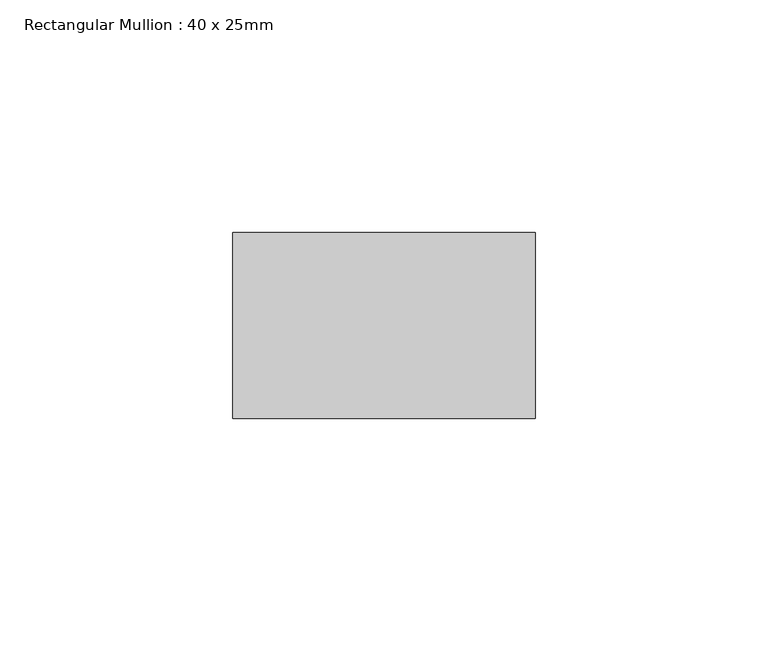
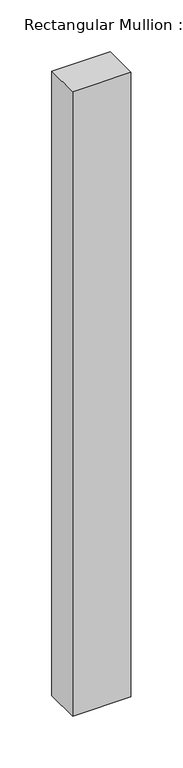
"""IFC4 building model written with IfcOpenShell, lengths in millimetres: member geometry, Rectangular Mullion : 40 x 25mm."""

import ifcopenshell
import ifcopenshell.guid

model = None  # the IFC model being written
_history = None  # IfcOwnerHistory: only IFC2X3 demands one
_inside = {}  # id of a spatial element -> (the spatial element, [elements in it])
_under = {}  # id of a project, library or spatial element -> (it, [spatial elements below it])
_declared = {}  # id of a project -> (the project, [libraries it declares])
_typed = {}  # id of a type object -> (the type object, [elements of that type])
_made_of = {}  # id of a material, layer set ... -> (it, [elements and type objects made of it])


def new_model(schema):
    """Start an empty IFC model of exactly this schema.

    Asked for "IFC4X3", IfcOpenShell would pick the latest addendum, in which some entities
    have other attributes; the version numbers below select the first issue.
    IFC2X3 requires an IfcOwnerHistory on every rooted entity: one is made here for all.
    """
    global model, _history
    if schema == "IFC4X3":
        model = ifcopenshell.file(schema_version=(4, 3, 0, 0))
    else:
        model = ifcopenshell.file(schema=schema)
    _inside.clear()
    _under.clear()
    _declared.clear()
    _typed.clear()
    _made_of.clear()
    _history = None
    if model.schema == "IFC2X3":
        org = make("IfcOrganization", Name="unknown")
        user = make(
            "IfcPersonAndOrganization",
            ThePerson=make("IfcPerson", FamilyName="unknown"),
            TheOrganization=org,
        )
        app = make(
            "IfcApplication",
            ApplicationDeveloper=org,
            Version="unknown",
            ApplicationFullName="unknown",
            ApplicationIdentifier="unknown",
        )
        _history = make(
            "IfcOwnerHistory",
            OwningUser=user,
            OwningApplication=app,
            ChangeAction="ADDED",
            CreationDate=0,
        )
    return model


def make(cls, **values):
    """One entity of the class cls with the attributes given. An attribute that is None is left unset."""
    return model.create_entity(
        cls, **{name: value for name, value in values.items() if value is not None}
    )


def rooted(cls, **values):
    """An entity with a GlobalId (a new one), such as an element, a storey or a relation."""
    return make(cls, GlobalId=ifcopenshell.guid.new(), OwnerHistory=_history, **values)


def si_unit(unit_type, name, prefix=None):
    """IfcSIUnit, for example si_unit("LENGTHUNIT", "METRE", prefix="MILLI")."""
    return make("IfcSIUnit", UnitType=unit_type, Prefix=prefix, Name=name)


def assignment(units):
    """IfcUnitAssignment: the units of a project."""
    return None if units is None else make("IfcUnitAssignment", Units=units)


def point(xyz):
    """IfcCartesianPoint."""
    return None if xyz is None else make("IfcCartesianPoint", Coordinates=xyz)


def direction(xyz):
    """IfcDirection."""
    return None if xyz is None else make("IfcDirection", DirectionRatios=xyz)


def frame(location, z_axis=None, x_axis=None):
    """IfcAxis2Placement3D, a coordinate frame: its origin and axes. An axis left out is left unset."""
    return make(
        "IfcAxis2Placement3D",
        Location=point(location),
        Axis=direction(z_axis),
        RefDirection=direction(x_axis),
    )


def origin():
    """The frame at (0, 0, 0) with its axes left unset."""
    return frame((0.0, 0.0, 0.0))


def place(relative_to, where):
    """IfcLocalPlacement: puts the frame where relative to a parent placement (None: the world)."""
    return make(
        "IfcLocalPlacement", PlacementRelTo=relative_to, RelativePlacement=where
    )


def context(
    kind, dimensions, precision=None, world=None, true_north=None, identifier=None
):
    """IfcGeometricRepresentationContext, for example the 3D "Model" context."""
    return make(
        "IfcGeometricRepresentationContext",
        ContextIdentifier=identifier,
        ContextType=kind,
        CoordinateSpaceDimension=dimensions,
        Precision=precision,
        WorldCoordinateSystem=world,
        TrueNorth=true_north,
    )


def project(units=None, contexts=None):
    """IfcProject with its units and contexts."""
    return rooted(
        "IfcProject",
        Name="project",
        RepresentationContexts=contexts,
        UnitsInContext=assignment(units),
    )


def spatial(cls, under=None, at=None, **own):
    """A site, building, storey or space (cls), placed at a placement, below another one or the project."""
    s = rooted(cls, ObjectPlacement=at, **own)
    if under is not None:
        _under.setdefault(under.id(), (under, []))[1].append(s)
    return s


def polyline(points):
    """IfcPolyline through the points."""
    return make("IfcPolyline", Points=[point(p) for p in points])


def outline(outer, holes=None, kind="AREA"):
    """IfcArbitraryClosedProfileDef: a profile drawn as a closed curve; with holes, ...WithVoids."""
    if holes is None:
        return make("IfcArbitraryClosedProfileDef", ProfileType=kind, OuterCurve=outer)
    return make(
        "IfcArbitraryProfileDefWithVoids",
        ProfileType=kind,
        OuterCurve=outer,
        InnerCurves=holes,
    )


def extrude(swept, where, along, depth):
    """IfcExtrudedAreaSolid: the profile swept, set in the frame where, extruded along a direction by depth."""
    return make(
        "IfcExtrudedAreaSolid",
        SweptArea=swept,
        Position=where,
        ExtrudedDirection=direction(along),
        Depth=depth,
    )


def shape(context_of_items, identifier, shape_type, items):
    """IfcShapeRepresentation: the items that make up one representation, for example the "Body"."""
    return make(
        "IfcShapeRepresentation",
        ContextOfItems=context_of_items,
        RepresentationIdentifier=identifier,
        RepresentationType=shape_type,
        Items=items,
    )


def source(mapping_origin, context_of_items, identifier, shape_type, items):
    """IfcRepresentationMap: a shape defined once, which mapped items show again and again."""
    return make(
        "IfcRepresentationMap",
        MappingOrigin=mapping_origin,
        MappedRepresentation=shape(context_of_items, identifier, shape_type, items),
    )


def transform(
    local_origin,
    x_axis=None,
    y_axis=None,
    z_axis=None,
    scale=None,
    scale2=None,
    scale3=None,
    uniform=True,
):
    """IfcCartesianTransformationOperator3D, or its non-uniform kind. x_axis, y_axis, z_axis: its Axis1, 2, 3."""
    if uniform:
        return make(
            "IfcCartesianTransformationOperator3D",
            Axis1=direction(x_axis),
            Axis2=direction(y_axis),
            LocalOrigin=point(local_origin),
            Scale=scale,
            Axis3=direction(z_axis),
        )
    return make(
        "IfcCartesianTransformationOperator3DnonUniform",
        Axis1=direction(x_axis),
        Axis2=direction(y_axis),
        LocalOrigin=point(local_origin),
        Scale=scale,
        Axis3=direction(z_axis),
        Scale2=scale2,
        Scale3=scale3,
    )


def mapped(mapping_source, mapping_target):
    """IfcMappedItem: shows the shape of a source again, moved by a transform."""
    return make(
        "IfcMappedItem", MappingSource=mapping_source, MappingTarget=mapping_target
    )


def made_of(thing, what):
    """Note that an element or type object is made of a material, layer set ...; save() writes the relation."""
    if what is not None:
        _made_of.setdefault(what.id(), (what, []))[1].append(thing)
    return thing


def element(
    cls,
    number,
    at=None,
    inside=None,
    cuts=None,
    type_object=None,
    material=None,
    context=None,
    identifier="Body",
    shape_type=None,
    held_by="IfcProductDefinitionShape",
    body=None,
    shapes=None,
    **own,
):
    """One element of the class cls, such as IfcWall. Its Tag is "e" and its number.

    at: its placement. inside: the storey or other place that contains it. cuts: it is an
    opening in that element (IfcRelVoidsElement). A single representation is given by context,
    identifier, shape_type and body (its items); several are given by shapes. held_by: the class
    of the entity that holds the representations. save() writes the other relations.
    """
    e = rooted(cls, Tag="e%d" % number, ObjectPlacement=at, **own)
    if body is not None:
        shapes = [shape(context, identifier, shape_type, body)]
    if shapes is not None:
        e.Representation = make(held_by, Representations=shapes)
    if inside is not None:
        _inside.setdefault(inside.id(), (inside, []))[1].append(e)
    if cuts is not None:
        rooted(
            "IfcRelVoidsElement", RelatingBuildingElement=cuts, RelatedOpeningElement=e
        )
    if type_object is not None:
        _typed.setdefault(type_object.id(), (type_object, []))[1].append(e)
    return made_of(e, material)


def aggregate(whole, parts):
    """IfcRelAggregates: a whole, such as a stair, and the parts it consists of."""
    return rooted("IfcRelAggregates", RelatingObject=whole, RelatedObjects=parts)


def save(model, path):
    """Write the relations noted so far, then the file.

    IfcRelAggregates (storeys below a building ...), IfcRelContainedInSpatialStructure (elements
    in a storey), IfcRelDefinesByType, IfcRelAssociatesMaterial and IfcRelDeclares: one each for
    every whole, place, type object, material and project.
    """
    for whole, parts in _under.values():
        aggregate(whole, parts)
    for where, things in _inside.values():
        rooted(
            "IfcRelContainedInSpatialStructure",
            RelatedElements=things,
            RelatingStructure=where,
        )
    for kind, things in _typed.values():
        rooted("IfcRelDefinesByType", RelatedObjects=things, RelatingType=kind)
    for what, things in _made_of.values():
        rooted("IfcRelAssociatesMaterial", RelatedObjects=things, RelatingMaterial=what)
    for by, libraries in _declared.values():
        rooted("IfcRelDeclares", RelatingContext=by, RelatedDefinitions=libraries)
    model.write(path)


def rectangular_mullion_40_x_25mm_f49b78ae(model_context):
    return source(origin(), model_context, "Body", "SweptSolid", [
        extrude(outline(polyline([(40.0, -20.0), (40.0, -60.0), (-25.0, -60.0), (-25.0, -20.0), (40.0, -20.0)])), frame((0.0, 0.0, -734.9635531), z_axis=(0.0, 0.0, 1.0), x_axis=(1.0, 0.0, 0.0)), (0.0, 0.0, 1.0), 734.9635531),
    ])


if __name__ == "__main__":
    model = new_model("IFC4")
    model_context = context("Model", 3, world=origin())
    ifc_project = project(units=[si_unit("LENGTHUNIT", "METRE", prefix="MILLI")], contexts=[model_context])
    site = spatial("IfcSite", under=ifc_project)
    building = spatial("IfcBuilding", under=site)
    placement = place(None, origin())
    rectangular_mullion_40_x_25mm_shape = rectangular_mullion_40_x_25mm_f49b78ae(model_context)
    element("IfcMember", 1, ObjectType="Rectangular Mullion : 40 x 25mm", at=placement, inside=building, context=model_context, shape_type="MappedRepresentation", body=[
        mapped(rectangular_mullion_40_x_25mm_shape, transform((0.0, 0.0, 0.0), x_axis=(1.0, 0.0, 0.0), y_axis=(0.0, 1.0, 0.0), z_axis=(0.0, 0.0, 1.0))),
    ])
    save(model, "model.ifc")
